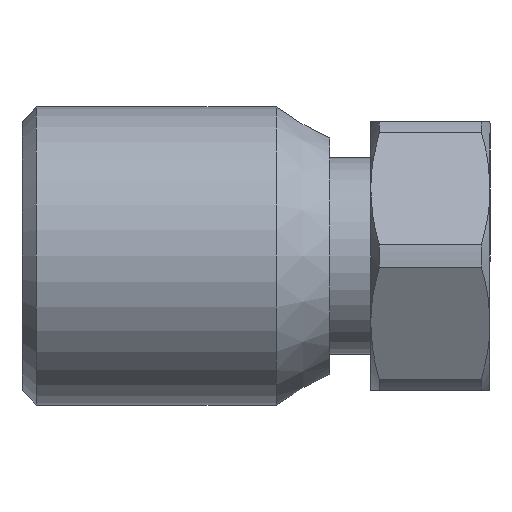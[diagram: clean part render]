
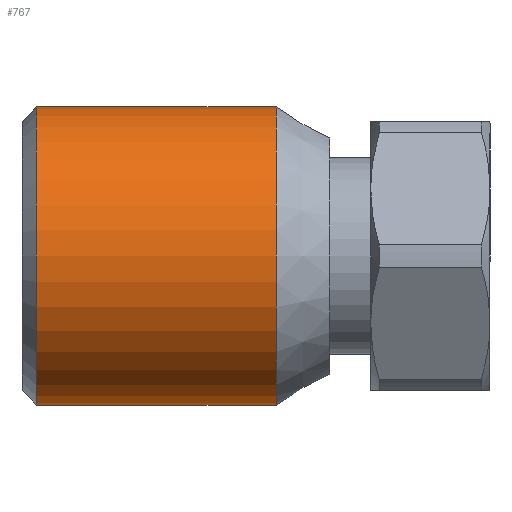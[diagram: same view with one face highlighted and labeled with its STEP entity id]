
A CAD part, left-side view. The second image highlights one B-rep face of the part: STEP entity #767.
In plain terms, the highlighted cylindrical face has radius 7.938 mm (diameter 15.875 mm), a full revolution.
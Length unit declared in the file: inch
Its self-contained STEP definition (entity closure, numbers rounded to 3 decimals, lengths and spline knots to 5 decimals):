
#38=B_SPLINE_CURVE_WITH_KNOTS('',3,(#1194,#1195,#1196,#1197,#1198,#1199,
#1200,#1201,#1202,#1203),.UNSPECIFIED.,.F.,.F.,(4,2,2,2,4),(0.,0.15663,
0.31326,0.46942,0.62557),.UNSPECIFIED.);
#39=B_SPLINE_CURVE_WITH_KNOTS('',3,(#1206,#1207,#1208,#1209,#1210,#1211,
#1212,#1213,#1214,#1215),.UNSPECIFIED.,.F.,.F.,(4,2,2,2,4),(1.87672,
2.03287,2.18903,2.34566,2.50229),
 .UNSPECIFIED.);
#40=B_SPLINE_CURVE_WITH_KNOTS('',3,(#1217,#1218,#1219,#1220,#1221,#1222,
#1223,#1224,#1225,#1226),.UNSPECIFIED.,.F.,.F.,(4,2,2,2,4),(1.25114,
1.40778,1.56441,1.72056,1.87672),
 .UNSPECIFIED.);
#41=B_SPLINE_CURVE_WITH_KNOTS('',3,(#1227,#1228,#1229,#1230,#1231,#1232,
#1233,#1234,#1235,#1236),.UNSPECIFIED.,.F.,.F.,(4,2,2,2,4),(0.62557,
0.78173,0.93788,1.09451,1.25114),
 .UNSPECIFIED.);
#87=FACE_OUTER_BOUND('',#134,.T.);
#134=EDGE_LOOP('',(#509,#510,#511,#512,#513,#514,#515,#516,#517,#518,#519,
#520));
#179=LINE('',#1253,#206);
#180=LINE('',#1254,#207);
#206=VECTOR('',#983,0.3125);
#207=VECTOR('',#984,0.3125);
#240=CIRCLE('',#844,0.3125);
#241=CIRCLE('',#845,0.3125);
#242=CIRCLE('',#847,0.3125);
#243=CIRCLE('',#848,0.3125);
#295=VERTEX_POINT('',#1192);
#296=VERTEX_POINT('',#1193);
#297=VERTEX_POINT('',#1205);
#298=VERTEX_POINT('',#1216);
#301=VERTEX_POINT('',#1243);
#302=VERTEX_POINT('',#1244);
#303=VERTEX_POINT('',#1249);
#304=VERTEX_POINT('',#1250);
#371=EDGE_CURVE('',#295,#296,#38,.T.);
#373=EDGE_CURVE('',#297,#295,#39,.T.);
#374=EDGE_CURVE('',#298,#297,#40,.T.);
#375=EDGE_CURVE('',#296,#298,#41,.T.);
#378=EDGE_CURVE('',#301,#302,#240,.T.);
#379=EDGE_CURVE('',#302,#301,#241,.T.);
#381=EDGE_CURVE('',#303,#304,#242,.T.);
#382=EDGE_CURVE('',#304,#303,#243,.T.);
#383=EDGE_CURVE('',#304,#296,#179,.T.);
#384=EDGE_CURVE('',#297,#302,#180,.T.);
#509=ORIENTED_EDGE('',*,*,#381,.F.);
#510=ORIENTED_EDGE('',*,*,#382,.F.);
#511=ORIENTED_EDGE('',*,*,#383,.T.);
#512=ORIENTED_EDGE('',*,*,#375,.T.);
#513=ORIENTED_EDGE('',*,*,#374,.T.);
#514=ORIENTED_EDGE('',*,*,#384,.T.);
#515=ORIENTED_EDGE('',*,*,#379,.T.);
#516=ORIENTED_EDGE('',*,*,#378,.T.);
#517=ORIENTED_EDGE('',*,*,#384,.F.);
#518=ORIENTED_EDGE('',*,*,#373,.T.);
#519=ORIENTED_EDGE('',*,*,#371,.T.);
#520=ORIENTED_EDGE('',*,*,#383,.F.);
#701=CYLINDRICAL_SURFACE('',#846,0.3125);
#767=ADVANCED_FACE('',(#87),#701,.T.);
#844=AXIS2_PLACEMENT_3D('',#1245,#972,#973);
#845=AXIS2_PLACEMENT_3D('',#1246,#974,#975);
#846=AXIS2_PLACEMENT_3D('',#1248,#977,#978);
#847=AXIS2_PLACEMENT_3D('',#1251,#979,#980);
#848=AXIS2_PLACEMENT_3D('',#1252,#981,#982);
#972=DIRECTION('center_axis',(0.,-1.,0.));
#973=DIRECTION('ref_axis',(-1.,0.,0.));
#974=DIRECTION('center_axis',(0.,-1.,0.));
#975=DIRECTION('ref_axis',(-1.,0.,0.));
#977=DIRECTION('center_axis',(0.,-1.,0.));
#978=DIRECTION('ref_axis',(-1.,0.,0.));
#979=DIRECTION('center_axis',(0.,-1.,0.));
#980=DIRECTION('ref_axis',(-1.,0.,0.));
#981=DIRECTION('center_axis',(0.,-1.,0.));
#982=DIRECTION('ref_axis',(-1.,0.,0.));
#983=DIRECTION('',(0.,1.,0.));
#984=DIRECTION('',(0.,1.,0.));
#1192=CARTESIAN_POINT('',(0.26843,0.1375,-0.16));
#1193=CARTESIAN_POINT('',(0.3125,-0.0225,0.));
#1194=CARTESIAN_POINT('Ctrl Pts',(0.26843,0.1375,-0.16));
#1195=CARTESIAN_POINT('Ctrl Pts',(0.26843,0.11694,-0.16));
#1196=CARTESIAN_POINT('Ctrl Pts',(0.27105,0.09537,
-0.15581));
#1197=CARTESIAN_POINT('Ctrl Pts',(0.27985,0.05611,
-0.13938));
#1198=CARTESIAN_POINT('Ctrl Pts',(0.28586,0.03838,
-0.12715));
#1199=CARTESIAN_POINT('Ctrl Pts',(0.29673,0.01039,
-0.09916));
#1200=CARTESIAN_POINT('Ctrl Pts',(0.30237,-0.00187,
-0.08142));
#1201=CARTESIAN_POINT('Ctrl Pts',(0.3103,-0.01833,
-0.0421));
#1202=CARTESIAN_POINT('Ctrl Pts',(0.3125,-0.0225,-0.02049));
#1203=CARTESIAN_POINT('Ctrl Pts',(0.3125,-0.0225,0.));
#1205=CARTESIAN_POINT('',(0.3125,0.2975,0.));
#1206=CARTESIAN_POINT('Ctrl Pts',(0.3125,0.2975,0.));
#1207=CARTESIAN_POINT('Ctrl Pts',(0.3125,0.2975,-0.02049));
#1208=CARTESIAN_POINT('Ctrl Pts',(0.3103,0.29333,-0.0421));
#1209=CARTESIAN_POINT('Ctrl Pts',(0.30237,0.27687,-0.08142));
#1210=CARTESIAN_POINT('Ctrl Pts',(0.29673,0.26461,-0.09916));
#1211=CARTESIAN_POINT('Ctrl Pts',(0.28586,0.23662,-0.12715));
#1212=CARTESIAN_POINT('Ctrl Pts',(0.27985,0.21889,-0.13938));
#1213=CARTESIAN_POINT('Ctrl Pts',(0.27105,0.17963,-0.15581));
#1214=CARTESIAN_POINT('Ctrl Pts',(0.26843,0.15806,-0.16));
#1215=CARTESIAN_POINT('Ctrl Pts',(0.26843,0.1375,-0.16));
#1216=CARTESIAN_POINT('',(0.26843,0.1375,0.16));
#1217=CARTESIAN_POINT('Ctrl Pts',(0.26843,0.1375,0.16));
#1218=CARTESIAN_POINT('Ctrl Pts',(0.26843,0.15806,0.16));
#1219=CARTESIAN_POINT('Ctrl Pts',(0.27105,0.17963,0.15581));
#1220=CARTESIAN_POINT('Ctrl Pts',(0.27985,0.21889,0.13938));
#1221=CARTESIAN_POINT('Ctrl Pts',(0.28586,0.23662,0.12715));
#1222=CARTESIAN_POINT('Ctrl Pts',(0.29673,0.26461,0.09916));
#1223=CARTESIAN_POINT('Ctrl Pts',(0.30237,0.27687,0.08142));
#1224=CARTESIAN_POINT('Ctrl Pts',(0.3103,0.29333,0.0421));
#1225=CARTESIAN_POINT('Ctrl Pts',(0.3125,0.2975,0.02049));
#1226=CARTESIAN_POINT('Ctrl Pts',(0.3125,0.2975,0.));
#1227=CARTESIAN_POINT('Ctrl Pts',(0.3125,-0.0225,0.));
#1228=CARTESIAN_POINT('Ctrl Pts',(0.3125,-0.0225,0.02049));
#1229=CARTESIAN_POINT('Ctrl Pts',(0.3103,-0.01833,
0.0421));
#1230=CARTESIAN_POINT('Ctrl Pts',(0.30237,-0.00187,
0.08142));
#1231=CARTESIAN_POINT('Ctrl Pts',(0.29673,0.01039,
0.09916));
#1232=CARTESIAN_POINT('Ctrl Pts',(0.28586,0.03838,0.12715));
#1233=CARTESIAN_POINT('Ctrl Pts',(0.27985,0.05611,
0.13938));
#1234=CARTESIAN_POINT('Ctrl Pts',(0.27105,0.09537,
0.15581));
#1235=CARTESIAN_POINT('Ctrl Pts',(0.26843,0.11694,0.16));
#1236=CARTESIAN_POINT('Ctrl Pts',(0.26843,0.1375,0.16));
#1243=CARTESIAN_POINT('',(-0.3125,0.3175,0.));
#1244=CARTESIAN_POINT('',(0.3125,0.3175,0.));
#1245=CARTESIAN_POINT('Origin',(0.,0.3175,0.));
#1246=CARTESIAN_POINT('Origin',(0.,0.3175,0.));
#1248=CARTESIAN_POINT('Origin',(0.,0.066,0.));
#1249=CARTESIAN_POINT('',(-0.3125,-0.1855,0.));
#1250=CARTESIAN_POINT('',(0.3125,-0.1855,0.));
#1251=CARTESIAN_POINT('Origin',(0.,-0.1855,0.));
#1252=CARTESIAN_POINT('Origin',(0.,-0.1855,0.));
#1253=CARTESIAN_POINT('',(0.3125,0.066,0.));
#1254=CARTESIAN_POINT('',(0.3125,0.066,0.));
